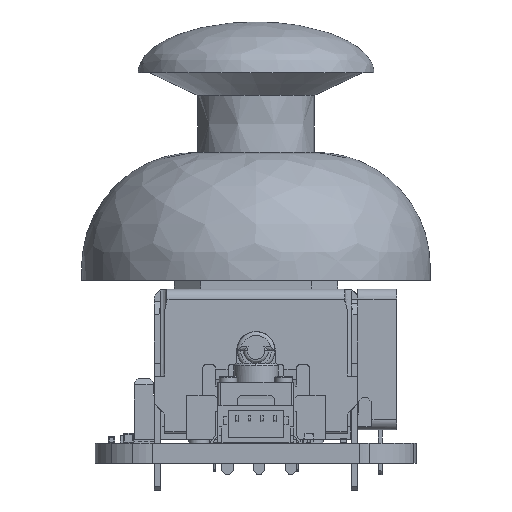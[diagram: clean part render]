
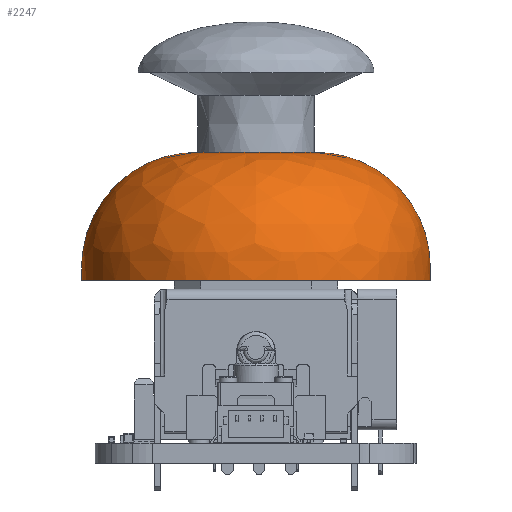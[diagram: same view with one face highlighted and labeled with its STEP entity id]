
A CAD part, left-side view. The second image highlights one B-rep face of the part: STEP entity #2247.
In plain terms, the highlighted free-form (B-spline) face has degree [3, 2] with [8, 7] control points.
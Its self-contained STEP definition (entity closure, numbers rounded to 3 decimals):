
#1925 = VERTEX_POINT('',#1926);
#1926 = CARTESIAN_POINT('',(-13.745,-0.088,
    12.85));
#1933 = VERTEX_POINT('',#1934);
#1934 = CARTESIAN_POINT('',(13.755,-0.088,
    12.85));
#1960 = EDGE_CURVE('',#1925,#1961,#1963,.T.);
#1961 = VERTEX_POINT('',#1962);
#1962 = CARTESIAN_POINT('',(-4.595,-0.088,
    22.95));
#1963 = ( BOUNDED_CURVE() B_SPLINE_CURVE(2,(#1964,#1965,#1966,#1967,
#1968,#1969,#1970),.UNSPECIFIED.,.F.,.F.) B_SPLINE_CURVE_WITH_KNOTS((3,2
    ,2,3),(27.5,28.6,42.737,42.887),.UNSPECIFIED.) 
CURVE() GEOMETRIC_REPRESENTATION_ITEM() RATIONAL_B_SPLINE_CURVE((1.,1.,
1.,0.707,1.,1.,1.)) REPRESENTATION_ITEM('') );
#1964 = CARTESIAN_POINT('',(-13.745,-0.088,
    12.85));
#1965 = CARTESIAN_POINT('',(-13.745,-0.088,
    13.4));
#1966 = CARTESIAN_POINT('',(-13.745,-0.088,
    13.95));
#1967 = CARTESIAN_POINT('',(-13.745,-0.088,
    22.95));
#1968 = CARTESIAN_POINT('',(-4.745,-0.088,
    22.95));
#1969 = CARTESIAN_POINT('',(-4.67,-0.088,
    22.95));
#1970 = CARTESIAN_POINT('',(-4.595,-0.088,
    22.95));
#1973 = VERTEX_POINT('',#1974);
#1974 = CARTESIAN_POINT('',(4.605,-0.088,
    22.95));
#1985 = EDGE_CURVE('',#1973,#1933,#1986,.T.);
#1986 = ( BOUNDED_CURVE() B_SPLINE_CURVE(2,(#1987,#1988,#1989,#1990,
#1991,#1992,#1993),.UNSPECIFIED.,.F.,.F.) B_SPLINE_CURVE_WITH_KNOTS((3,2
    ,2,3),(-42.887,-42.737,-28.6,-27.5),.UNSPECIFIED.) 
CURVE() GEOMETRIC_REPRESENTATION_ITEM() RATIONAL_B_SPLINE_CURVE((1.,1.,
1.,0.707,1.,1.,1.)) REPRESENTATION_ITEM('') );
#1987 = CARTESIAN_POINT('',(4.605,-0.088,
    22.95));
#1988 = CARTESIAN_POINT('',(4.68,-0.088,
    22.95));
#1989 = CARTESIAN_POINT('',(4.755,-0.088,
    22.95));
#1990 = CARTESIAN_POINT('',(13.755,-0.088,
    22.95));
#1991 = CARTESIAN_POINT('',(13.755,-0.088,
    13.95));
#1992 = CARTESIAN_POINT('',(13.755,-0.088,
    13.4));
#1993 = CARTESIAN_POINT('',(13.755,-0.088,
    12.85));
#2231 = EDGE_CURVE('',#1933,#1925,#2232,.T.);
#2232 = B_SPLINE_CURVE_WITH_KNOTS('',3,(#2233,#2234,#2235,#2236,#2237,
    #2238,#2239,#2240),.UNSPECIFIED.,.F.,.F.,(4,1,1,1,1,4),(
    -77.158,-69.443,-61.727,-54.011,
    -46.295,-38.579),.UNSPECIFIED.);
#2233 = CARTESIAN_POINT('',(13.755,-0.088,
    12.85));
#2234 = CARTESIAN_POINT('',(13.755,-2.965,
    12.85));
#2235 = CARTESIAN_POINT('',(11.886,-8.719,
    12.85));
#2236 = CARTESIAN_POINT('',(4.543,-14.054,
    12.85));
#2237 = CARTESIAN_POINT('',(-4.533,-14.054,
    12.85));
#2238 = CARTESIAN_POINT('',(-11.875,-8.719,
    12.85));
#2239 = CARTESIAN_POINT('',(-13.745,-2.965,
    12.85));
#2240 = CARTESIAN_POINT('',(-13.745,-0.088,
    12.85));
#2247 = ADVANCED_FACE('',(#2248),#2264,.T.);
#2248 = FACE_BOUND('',#2249,.T.);
#2249 = EDGE_LOOP('',(#2250,#2251,#2252,#2263));
#2250 = ORIENTED_EDGE('',*,*,#2231,.F.);
#2251 = ORIENTED_EDGE('',*,*,#1985,.F.);
#2252 = ORIENTED_EDGE('',*,*,#2253,.T.);
#2253 = EDGE_CURVE('',#1973,#1961,#2254,.T.);
#2254 = B_SPLINE_CURVE_WITH_KNOTS('',3,(#2255,#2256,#2257,#2258,#2259,
    #2260,#2261,#2262),.UNSPECIFIED.,.F.,.F.,(4,1,1,1,1,4),(
    -77.158,-69.443,-61.727,-54.011,
    -46.295,-38.579),.UNSPECIFIED.);
#2255 = CARTESIAN_POINT('',(4.605,-0.088,
    22.95));
#2256 = CARTESIAN_POINT('',(4.605,-1.05,
    22.95));
#2257 = CARTESIAN_POINT('',(3.98,-2.975,
    22.95));
#2258 = CARTESIAN_POINT('',(1.523,-4.76,
    22.95));
#2259 = CARTESIAN_POINT('',(-1.513,-4.76,
    22.95));
#2260 = CARTESIAN_POINT('',(-3.969,-2.975,
    22.95));
#2261 = CARTESIAN_POINT('',(-4.595,-1.05,
    22.95));
#2262 = CARTESIAN_POINT('',(-4.595,-0.088,
    22.95));
#2263 = ORIENTED_EDGE('',*,*,#1960,.F.);
#2264 = ( BOUNDED_SURFACE() B_SPLINE_SURFACE(3,2,(
    (#2265,#2266,#2267,#2268,#2269,#2270,#2271)
    ,(#2272,#2273,#2274,#2275,#2276,#2277,#2278)
    ,(#2279,#2280,#2281,#2282,#2283,#2284,#2285)
    ,(#2286,#2287,#2288,#2289,#2290,#2291,#2292)
    ,(#2293,#2294,#2295,#2296,#2297,#2298,#2299)
    ,(#2300,#2301,#2302,#2303,#2304,#2305,#2306)
    ,(#2307,#2308,#2309,#2310,#2311,#2312,#2313)
    ,(#2314,#2315,#2316,#2317,#2318,#2319,#2320
)),.UNSPECIFIED.,.F.,.F.,.F.) B_SPLINE_SURFACE_WITH_KNOTS((4,1,1,1,1,4),
  (3,2,2,3),(38.579,46.295,54.011,
    61.727,69.443,77.158),(27.5,28.6,
    42.737,42.887),.UNSPECIFIED.) 
GEOMETRIC_REPRESENTATION_ITEM() RATIONAL_B_SPLINE_SURFACE((
    (1.,1.,1.,0.707,1.,1.,1.)
    ,(1.,1.,1.,0.707,1.,1.,1.)
    ,(1.,1.,1.,0.707,1.,1.,1.)
    ,(1.,1.,1.,0.707,1.,1.,1.)
    ,(1.,1.,1.,0.707,1.,1.,1.)
    ,(1.,1.,1.,0.707,1.,1.,1.)
    ,(1.,1.,1.,0.707,1.,1.,1.)
,(1.,1.,1.,0.707,1.,1.,1.
  ))) REPRESENTATION_ITEM('') SURFACE() );
#2265 = CARTESIAN_POINT('',(-13.745,-0.088,
    12.85));
#2266 = CARTESIAN_POINT('',(-13.745,-0.088,
    13.4));
#2267 = CARTESIAN_POINT('',(-13.745,-0.088,
    13.95));
#2268 = CARTESIAN_POINT('',(-13.745,-0.088,
    22.95));
#2269 = CARTESIAN_POINT('',(-4.745,-0.088,
    22.95));
#2270 = CARTESIAN_POINT('',(-4.67,-0.088,
    22.95));
#2271 = CARTESIAN_POINT('',(-4.595,-0.088,
    22.95));
#2272 = CARTESIAN_POINT('',(-13.745,-2.965,
    12.85));
#2273 = CARTESIAN_POINT('',(-13.745,-2.965,
    13.4));
#2274 = CARTESIAN_POINT('',(-13.745,-2.965,
    13.95));
#2275 = CARTESIAN_POINT('',(-13.745,-2.965,
    22.95));
#2276 = CARTESIAN_POINT('',(-4.745,-1.082,
    22.95));
#2277 = CARTESIAN_POINT('',(-4.67,-1.066,
    22.95));
#2278 = CARTESIAN_POINT('',(-4.595,-1.05,
    22.95));
#2279 = CARTESIAN_POINT('',(-11.875,-8.719,
    12.85));
#2280 = CARTESIAN_POINT('',(-11.875,-8.719,
    13.4));
#2281 = CARTESIAN_POINT('',(-11.875,-8.719,
    13.95));
#2282 = CARTESIAN_POINT('',(-11.875,-8.719,
    22.95));
#2283 = CARTESIAN_POINT('',(-4.099,-3.069,
    22.95));
#2284 = CARTESIAN_POINT('',(-4.034,-3.022,
    22.95));
#2285 = CARTESIAN_POINT('',(-3.969,-2.975,
    22.95));
#2286 = CARTESIAN_POINT('',(-4.533,-14.054,
    12.85));
#2287 = CARTESIAN_POINT('',(-4.533,-14.054,
    13.4));
#2288 = CARTESIAN_POINT('',(-4.533,-14.054,
    13.95));
#2289 = CARTESIAN_POINT('',(-4.533,-14.054,
    22.95));
#2290 = CARTESIAN_POINT('',(-1.562,-4.912,
    22.95));
#2291 = CARTESIAN_POINT('',(-1.538,-4.836,
    22.95));
#2292 = CARTESIAN_POINT('',(-1.513,-4.76,
    22.95));
#2293 = CARTESIAN_POINT('',(4.543,-14.054,
    12.85));
#2294 = CARTESIAN_POINT('',(4.543,-14.054,
    13.4));
#2295 = CARTESIAN_POINT('',(4.543,-14.054,
    13.95));
#2296 = CARTESIAN_POINT('',(4.543,-14.054,
    22.95));
#2297 = CARTESIAN_POINT('',(1.573,-4.912,
    22.95));
#2298 = CARTESIAN_POINT('',(1.548,-4.836,
    22.95));
#2299 = CARTESIAN_POINT('',(1.523,-4.76,
    22.95));
#2300 = CARTESIAN_POINT('',(11.886,-8.719,
    12.85));
#2301 = CARTESIAN_POINT('',(11.886,-8.719,
    13.4));
#2302 = CARTESIAN_POINT('',(11.886,-8.719,
    13.95));
#2303 = CARTESIAN_POINT('',(11.886,-8.719,
    22.95));
#2304 = CARTESIAN_POINT('',(4.109,-3.069,
    22.95));
#2305 = CARTESIAN_POINT('',(4.045,-3.022,
    22.95));
#2306 = CARTESIAN_POINT('',(3.98,-2.975,
    22.95));
#2307 = CARTESIAN_POINT('',(13.755,-2.965,
    12.85));
#2308 = CARTESIAN_POINT('',(13.755,-2.965,
    13.4));
#2309 = CARTESIAN_POINT('',(13.755,-2.965,
    13.95));
#2310 = CARTESIAN_POINT('',(13.755,-2.965,
    22.95));
#2311 = CARTESIAN_POINT('',(4.755,-1.082,
    22.95));
#2312 = CARTESIAN_POINT('',(4.68,-1.066,
    22.95));
#2313 = CARTESIAN_POINT('',(4.605,-1.05,
    22.95));
#2314 = CARTESIAN_POINT('',(13.755,-0.088,
    12.85));
#2315 = CARTESIAN_POINT('',(13.755,-0.088,
    13.4));
#2316 = CARTESIAN_POINT('',(13.755,-0.088,
    13.95));
#2317 = CARTESIAN_POINT('',(13.755,-0.088,
    22.95));
#2318 = CARTESIAN_POINT('',(4.755,-0.088,
    22.95));
#2319 = CARTESIAN_POINT('',(4.68,-0.088,
    22.95));
#2320 = CARTESIAN_POINT('',(4.605,-0.088,
    22.95));
